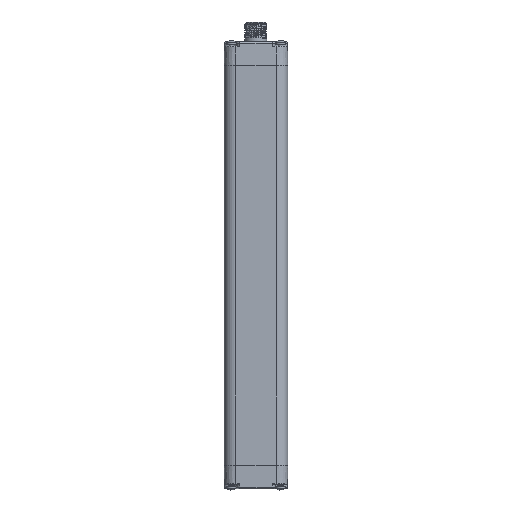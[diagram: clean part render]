
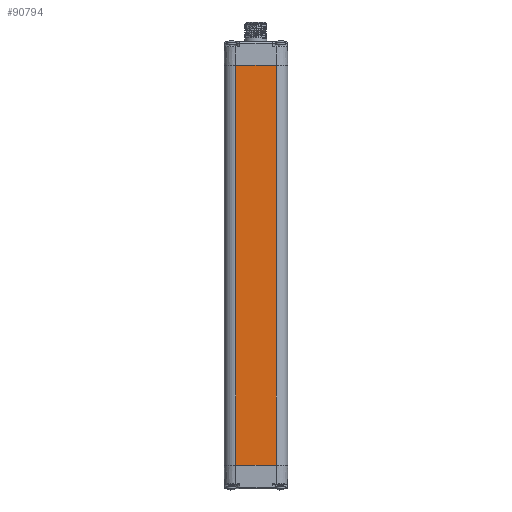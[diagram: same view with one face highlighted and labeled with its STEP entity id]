
A CAD part, top view. The second image highlights one B-rep face of the part: STEP entity #90794.
In plain terms, the highlighted planar face has unit normal (0, 0, 1).
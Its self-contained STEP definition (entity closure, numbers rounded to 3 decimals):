
#2442=DIRECTION('',(-1.,0.,0.));
#2443=VECTOR('',#2442,22.);
#2444=CARTESIAN_POINT('',(28.5,0.,
40.));
#2445=LINE('',#2444,#2443);
#2449=DIRECTION('',(0.,1.,0.));
#2450=VECTOR('',#2449,219.2);
#2451=CARTESIAN_POINT('',(6.5,0.,
40.));
#2452=LINE('',#2451,#2450);
#2456=DIRECTION('',(1.,0.,0.));
#2457=VECTOR('',#2456,22.);
#2458=CARTESIAN_POINT('',(6.5,219.2,40.));
#2459=LINE('',#2458,#2457);
#4119=DIRECTION('',(0.,1.,0.));
#4120=VECTOR('',#4119,219.2);
#4121=CARTESIAN_POINT('',(28.5,0.,
40.));
#4122=LINE('',#4121,#4120);
#84651=CARTESIAN_POINT('',(6.5,219.2,40.));
#84653=VERTEX_POINT('',#84651);
#84679=CARTESIAN_POINT('',(28.5,219.2,40.));
#84681=VERTEX_POINT('',#84679);
#85902=CARTESIAN_POINT('',(28.5,0.,
40.));
#85904=VERTEX_POINT('',#85902);
#85931=CARTESIAN_POINT('',(6.5,0.,
40.));
#85933=VERTEX_POINT('',#85931);
#90780=CARTESIAN_POINT('',(6.5,0.,40.));
#90781=DIRECTION('',(0.,0.,1.));
#90782=DIRECTION('',(1.,0.,0.));
#90783=AXIS2_PLACEMENT_3D('',#90780,#90781,#90782);
#90784=PLANE('',#90783);
#90785=ORIENTED_EDGE('',*,*,#90759,.T.);
#90787=ORIENTED_EDGE('',*,*,#90786,.T.);
#90789=ORIENTED_EDGE('',*,*,#90788,.T.);
#90791=ORIENTED_EDGE('',*,*,#90790,.F.);
#90792=EDGE_LOOP('',(#90785,#90787,#90789,#90791));
#90793=FACE_OUTER_BOUND('',#90792,.F.);
#90794=ADVANCED_FACE('',(#90793),#90784,.T.);
#90759=EDGE_CURVE('',#85904,#85933,#2445,.T.);
#90786=EDGE_CURVE('',#85933,#84653,#2452,.T.);
#90788=EDGE_CURVE('',#84653,#84681,#2459,.T.);
#90790=EDGE_CURVE('',#85904,#84681,#4122,.T.);
